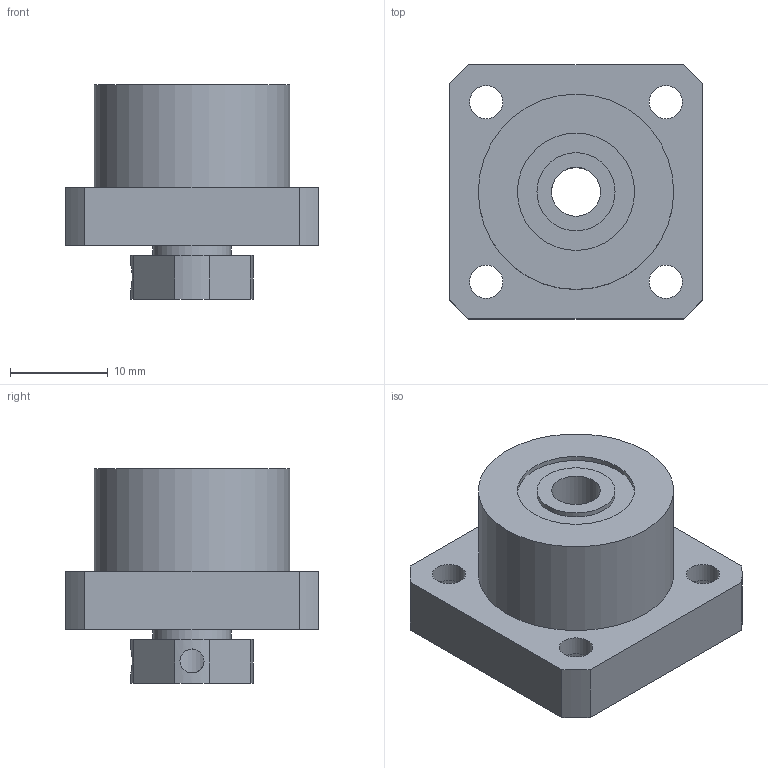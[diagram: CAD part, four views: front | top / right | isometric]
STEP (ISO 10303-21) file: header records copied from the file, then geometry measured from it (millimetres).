
FILE_DESCRIPTION(/* description */ (''),/* implementation_level */ '2;1');
FILE_NAME(/* name */ 'C:\Users\tenki620635\Desktop\官網\圖面\軸承座\3D\setp檔\FK05-Atype.stp',/* time_stamp */ '2020-12-18T19:56:48+08:00',/* author */ ('tenki620635'),/* organization */ (''),/* preprocessor_version */ 'ST-DEVELOPER v15.2',/* originating_system */ 'Autodesk Inventor 2014',/* authorisation */ '');
FILE_SCHEMA (('AUTOMOTIVE_DESIGN { 1 0 10303 214 3 1 1 }'));
Length unit declared in the file: millimetre
Products named in the file (1): FK05-Atype
Bounding box: 26 x 26 x 22 mm (x, y, z)
Volume: 6752.7 mm3; surface area: 3626.8 mm2
Topology: 1 solids, 1 shells, 42 faces, 97 edges, 66 vertices
Faces by surface type: cylinder 23, plane 19
Full cylindrical faces by diameter (mm): 2.459 x2, 3.4 x4, 5 x1, 6.5 x4, 8 x2, 12 x1, 20 x1
Entity records: 1295 total; most frequent: CARTESIAN_POINT 323, DIRECTION 202, ORIENTED_EDGE 160, AXIS2_PLACEMENT_3D 85, EDGE_LOOP 80, EDGE_CURVE 80, VERTEX_POINT 64, FACE_BOUND 47
